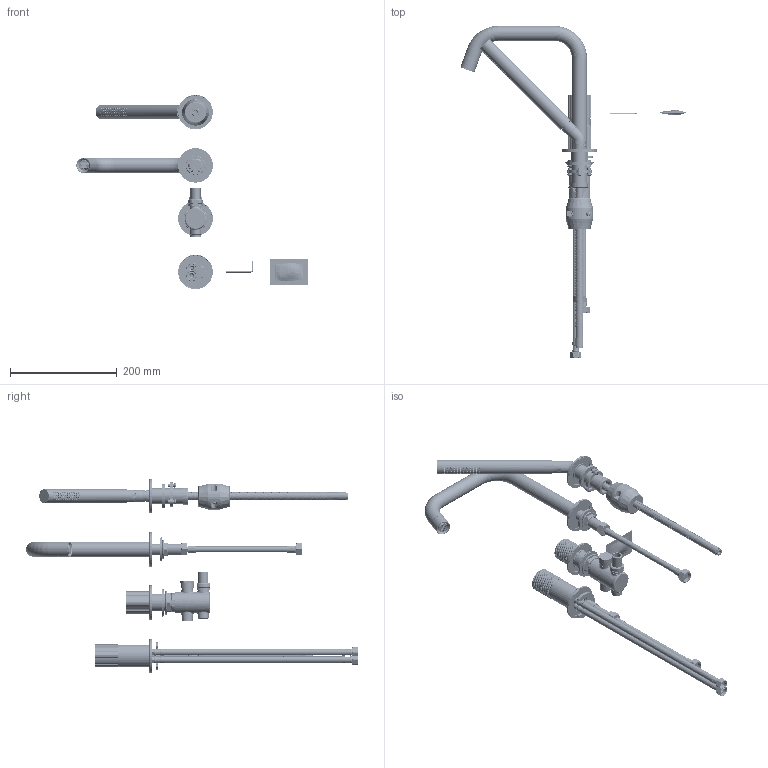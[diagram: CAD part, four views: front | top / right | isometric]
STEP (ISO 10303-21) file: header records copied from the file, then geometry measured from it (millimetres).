
FILE_DESCRIPTION((''),'2;1');
FILE_NAME('156816800_ASM','2022-08-31T08:49:41',('tec17'),(''),'CREO PARAMETRIC BY PTC INC, 2018260','CREO PARAMETRIC BY PTC INC, 2018260','');
FILE_SCHEMA(('CONFIG_CONTROL_DESIGN'));
Products named in the file (71): 203123130126-1; 20120225-6; 203123130126; 203123130126_ASM; 203010060126; 203200670126_ASM; 205074080102; 208000230601; 206063310126; 207011920601; 207020391601; 205022210105; 207011430601; 207010140601; 203101209901; 206062760126; 206093910126; 204011239901; 205020690102; 206101010102; 206062740126; 206062770126; 207042120701; 207011350601; 207020280506; 205021430102; 205011531601; 207042130701; 206012611626; 206120040501-1; 206120040501-2; 206120040501_ASM; 208000160601; 205074700102; 204061309901; 204061350111; 205074750102; 207010150601; 205074900101; 205022260102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
Assembly tree (85 placements, depth 4):
  156816800_ASM
    203200670126_ASM
      203123130126_ASM
        203123130126-1
        20120225-6
        203123130126
      203010060126
    205074080102
    208000230601
    206063310126
    207011920601
    207020391601
    205022210105
    207011430601  x4
    207010140601
    203101209901
    206062760126
    206093910126
    204011239901
    205020690102
    206101010102
    206062740126
    206062770126
    207042120701
    207011350601
    207020280506
    205021430102
    205011531601  x3
    207042130701
    206012611626
    206120040501_ASM
      206120040501-1  x2
      206120040501-2  x2
    208000160601  x3
    205074700102
    204061309901
    204061350111
    205074750102  x2
    207010150601  x3
    205074900101
    205022260102
    207011290601
    207011281601
    205071160102
    205055110126
    155733600SB
    207010750601
    207020160570
    205020630102
    207010841701
    205020640102
    208001960601
    207042410716
    202016670126
    206101340111
    207030451601
    205010361601
    205073200126
    205071720105
    205020910126
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Bounding box: 433.96 x 622.5 x 365 mm (x, y, z)
Volume: 713944.7 mm3; surface area: 572795.8 mm2
Topology: 89 solids, 164 shells, 4774 faces, 12423 edges, 8024 vertices
Faces by surface type: cylinder 2233, plane 1480, cone 545, torus 265, bspline 225, sphere 20, revolution 6
Entity records: 180026 total; most frequent: CARTESIAN_POINT 70600, ORIENTED_EDGE 22722, DIRECTION 21869, EDGE_CURVE 11529, AXIS2_PLACEMENT_3D 8631, VERTEX_POINT 7464, EDGE_LOOP 5410, VECTOR 4605
